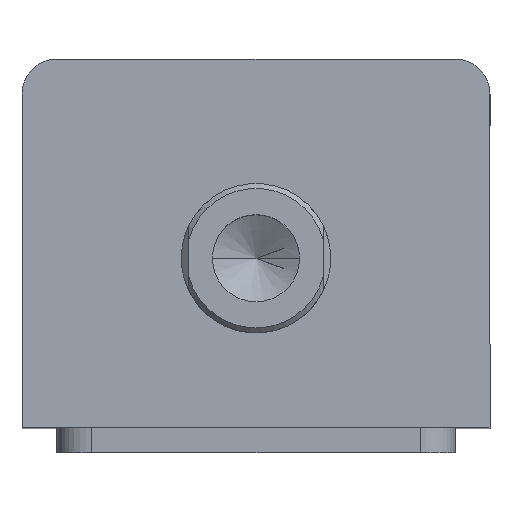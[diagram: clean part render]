
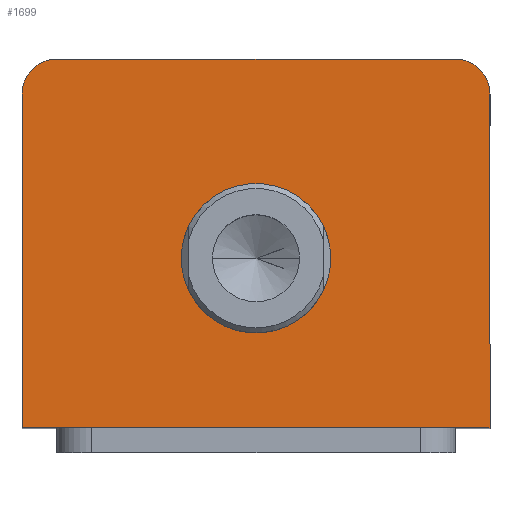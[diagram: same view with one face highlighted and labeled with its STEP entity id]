
A CAD part, top view. The second image highlights one B-rep face of the part: STEP entity #1699.
In plain terms, the highlighted planar face has unit normal (0, 0, 1).
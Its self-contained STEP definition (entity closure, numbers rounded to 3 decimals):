
#122 = ORIENTED_EDGE ( 'NONE', *, *, #1758, .T. ) ;
#123 = ORIENTED_EDGE ( 'NONE', *, *, #1726, .T. ) ;
#124 = ORIENTED_EDGE ( 'NONE', *, *, #1717, .T. ) ;
#125 = ORIENTED_EDGE ( 'NONE', *, *, #1775, .T. ) ;
#126 = ORIENTED_EDGE ( 'NONE', *, *, #1766, .T. ) ;
#127 = ORIENTED_EDGE ( 'NONE', *, *, #1739, .T. ) ;
#128 = ORIENTED_EDGE ( 'NONE', *, *, #2508, .F. ) ;
#129 = ORIENTED_EDGE ( 'NONE', *, *, #2485, .F. ) ;
#235 = EDGE_LOOP ( 'NONE', ( #129, #128 ) ) ;
#245 = VERTEX_POINT ( 'NONE', #823 ) ;
#256 = VERTEX_POINT ( 'NONE', #803 ) ;
#258 = VERTEX_POINT ( 'NONE', #798 ) ;
#260 = VERTEX_POINT ( 'NONE', #789 ) ;
#287 = VERTEX_POINT ( 'NONE', #744 ) ;
#290 = VERTEX_POINT ( 'NONE', #908 ) ;
#293 = VERTEX_POINT ( 'NONE', #896 ) ;
#298 = VERTEX_POINT ( 'NONE', #1150 ) ;
#356 = EDGE_LOOP ( 'NONE', ( #127, #126, #125, #124, #123, #122 ) ) ;
#560 = DIRECTION ( 'NONE',  ( 1., 0., 0. ) ) ;
#561 = DIRECTION ( 'NONE',  ( 0., 0., 1. ) ) ;
#562 = CARTESIAN_POINT ( 'NONE',  ( 0., -3., 150. ) ) ;
#571 = DIRECTION ( 'NONE',  ( 1., 0., 0. ) ) ;
#572 = DIRECTION ( 'NONE',  ( 0., 0., 1. ) ) ;
#573 = CARTESIAN_POINT ( 'NONE',  ( -40., 30., 150. ) ) ;
#626 = DIRECTION ( 'NONE',  ( 1., 0., 0. ) ) ;
#627 = DIRECTION ( 'NONE',  ( 0., 0., 1. ) ) ;
#628 = CARTESIAN_POINT ( 'NONE',  ( 0., -3., 150. ) ) ;
#703 = DIRECTION ( 'NONE',  ( 0., -1., 0. ) ) ;
#705 = CARTESIAN_POINT ( 'NONE',  ( -47., 37., 150. ) ) ;
#719 = DIRECTION ( 'NONE',  ( 1., 0., 0. ) ) ;
#721 = DIRECTION ( 'NONE',  ( 0., 0., 1. ) ) ;
#723 = CARTESIAN_POINT ( 'NONE',  ( 40., 30., 150. ) ) ;
#744 = CARTESIAN_POINT ( 'NONE',  ( 47., -37., 150. ) ) ;
#789 = CARTESIAN_POINT ( 'NONE',  ( 40., 37., 150. ) ) ;
#798 = CARTESIAN_POINT ( 'NONE',  ( -47., 30., 150. ) ) ;
#803 = CARTESIAN_POINT ( 'NONE',  ( -40., 37., 150. ) ) ;
#823 = CARTESIAN_POINT ( 'NONE',  ( 47., 30., 150. ) ) ;
#896 = CARTESIAN_POINT ( 'NONE',  ( -47., -37., 150. ) ) ;
#908 = CARTESIAN_POINT ( 'NONE',  ( -15., -3., 150. ) ) ;
#1150 = CARTESIAN_POINT ( 'NONE',  ( 15., -3., 150. ) ) ;
#1699 = ADVANCED_FACE ( 'NONE', ( #2147, #2153 ), #2880, .T. ) ;
#1717 = EDGE_CURVE ( 'NONE', #293, #287, #2177, .T. ) ;
#1726 = EDGE_CURVE ( 'NONE', #287, #245, #2188, .T. ) ;
#1739 = EDGE_CURVE ( 'NONE', #260, #256, #2220, .T. ) ;
#1758 = EDGE_CURVE ( 'NONE', #245, #260, #2238, .T. ) ;
#1766 = EDGE_CURVE ( 'NONE', #256, #258, #2260, .T. ) ;
#1775 = EDGE_CURVE ( 'NONE', #258, #293, #2275, .T. ) ;
#2147 = FACE_BOUND ( 'NONE', #235, .T. ) ;
#2153 = FACE_OUTER_BOUND ( 'NONE', #356, .T. ) ;
#2177 = LINE ( 'NONE', #2825, #2184 ) ;
#2184 = VECTOR ( 'NONE', #2803, 1000. ) ;
#2188 = LINE ( 'NONE', #2771, #2199 ) ;
#2199 = VECTOR ( 'NONE', #2779, 1000. ) ;
#2220 = LINE ( 'NONE', #2734, #2223 ) ;
#2223 = VECTOR ( 'NONE', #2733, 1000. ) ;
#2238 = CIRCLE ( 'NONE', #2978, 7. ) ;
#2260 = CIRCLE ( 'NONE', #2971, 7. ) ;
#2275 = LINE ( 'NONE', #705, #2278 ) ;
#2278 = VECTOR ( 'NONE', #703, 1000. ) ;
#2306 = CIRCLE ( 'NONE', #2960, 15. ) ;
#2342 = CIRCLE ( 'NONE', #2949, 15. ) ;
#2485 = EDGE_CURVE ( 'NONE', #298, #290, #2306, .T. ) ;
#2508 = EDGE_CURVE ( 'NONE', #290, #298, #2342, .T. ) ;
#2733 = DIRECTION ( 'NONE',  ( -1., 0., 0. ) ) ;
#2734 = CARTESIAN_POINT ( 'NONE',  ( -47., 37., 150. ) ) ;
#2771 = CARTESIAN_POINT ( 'NONE',  ( 47., 37., 150. ) ) ;
#2779 = DIRECTION ( 'NONE',  ( 0., 1., 0. ) ) ;
#2803 = DIRECTION ( 'NONE',  ( 1., 0., 0. ) ) ;
#2825 = CARTESIAN_POINT ( 'NONE',  ( -47., -37., 150. ) ) ;
#2877 = DIRECTION ( 'NONE',  ( 1., 0., 0. ) ) ;
#2878 = DIRECTION ( 'NONE',  ( 0., 0., 1. ) ) ;
#2880 = PLANE ( 'NONE',  #3001 ) ;
#2886 = CARTESIAN_POINT ( 'NONE',  ( 0., 0., 150. ) ) ;
#2949 = AXIS2_PLACEMENT_3D ( 'NONE', #562, #561, #560 ) ;
#2960 = AXIS2_PLACEMENT_3D ( 'NONE', #628, #627, #626 ) ;
#2971 = AXIS2_PLACEMENT_3D ( 'NONE', #573, #572, #571 ) ;
#2978 = AXIS2_PLACEMENT_3D ( 'NONE', #723, #721, #719 ) ;
#3001 = AXIS2_PLACEMENT_3D ( 'NONE', #2886, #2878, #2877 ) ;
